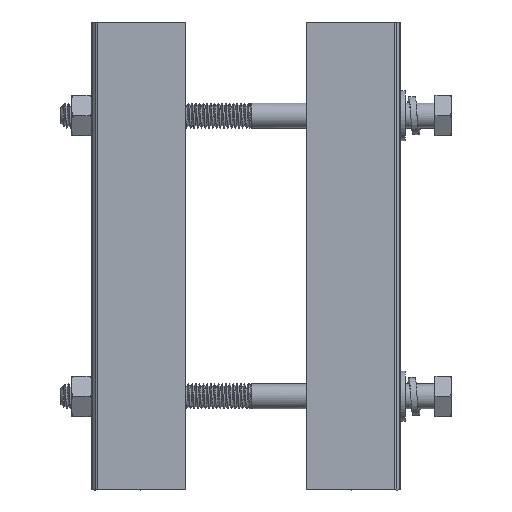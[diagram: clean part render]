
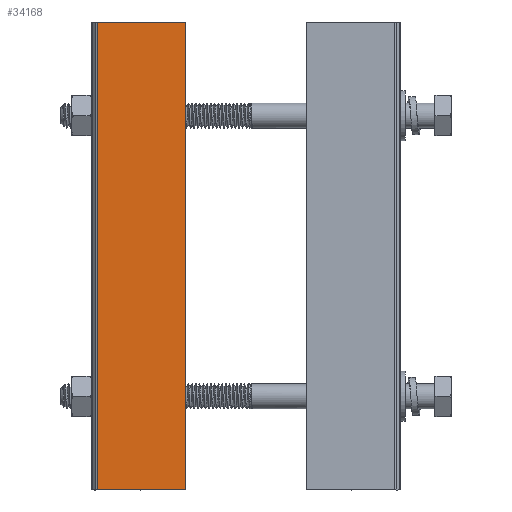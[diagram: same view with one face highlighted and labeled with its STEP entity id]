
A CAD part, left-side view. The second image highlights one B-rep face of the part: STEP entity #34168.
In plain terms, the highlighted planar face has unit normal (-1, 0, 0).
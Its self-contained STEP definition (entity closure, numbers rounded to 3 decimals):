
#4094 = EDGE_CURVE ( 'NONE', #25081, #71081, #68988, .T. ) ;
#6039 = VECTOR ( 'NONE', #31796, 1000. ) ;
#6715 = CARTESIAN_POINT ( 'NONE',  ( -22., 35.293, 0. ) ) ;
#8739 = CARTESIAN_POINT ( 'NONE',  ( -22., 7., 0. ) ) ;
#13277 = LINE ( 'NONE', #32592, #71995 ) ;
#14498 = EDGE_LOOP ( 'NONE', ( #62905, #26849, #21757, #19047 ) ) ;
#14526 = VERTEX_POINT ( 'NONE', #22387 ) ;
#16890 = LINE ( 'NONE', #51342, #46268 ) ;
#17905 = LINE ( 'NONE', #8739, #6039 ) ;
#17918 = EDGE_CURVE ( 'NONE', #25081, #49923, #16890, .T. ) ;
#19047 = ORIENTED_EDGE ( 'NONE', *, *, #38917, .F. ) ;
#20202 = EDGE_CURVE ( 'NONE', #71081, #14526, #13277, .T. ) ;
#21757 = ORIENTED_EDGE ( 'NONE', *, *, #20202, .T. ) ;
#22387 = CARTESIAN_POINT ( 'NONE',  ( -22., 7., 0. ) ) ;
#22658 = AXIS2_PLACEMENT_3D ( 'NONE', #62157, #27022, #50573 ) ;
#24146 = DIRECTION ( 'NONE',  ( 0., 0., -1. ) ) ;
#25081 = VERTEX_POINT ( 'NONE', #51746 ) ;
#26849 = ORIENTED_EDGE ( 'NONE', *, *, #4094, .T. ) ;
#27022 = DIRECTION ( 'NONE',  ( -1., 0., 0. ) ) ;
#31796 = DIRECTION ( 'NONE',  ( 0., 0., -1. ) ) ;
#32100 = CARTESIAN_POINT ( 'NONE',  ( -22., 35.293, 0. ) ) ;
#32592 = CARTESIAN_POINT ( 'NONE',  ( -22., 18.5, 0. ) ) ;
#34168 = ADVANCED_FACE ( 'NONE', ( #62952 ), #61641, .T. ) ;
#36395 = CARTESIAN_POINT ( 'NONE',  ( -22., 7., 150. ) ) ;
#38917 = EDGE_CURVE ( 'NONE', #49923, #14526, #17905, .T. ) ;
#46268 = VECTOR ( 'NONE', #74947, 1000. ) ;
#49923 = VERTEX_POINT ( 'NONE', #36395 ) ;
#50573 = DIRECTION ( 'NONE',  ( 0., 0., 1. ) ) ;
#51342 = CARTESIAN_POINT ( 'NONE',  ( -22., 18.5, 150. ) ) ;
#51746 = CARTESIAN_POINT ( 'NONE',  ( -22., 35.293, 150. ) ) ;
#61641 = PLANE ( 'NONE',  #22658 ) ;
#62095 = DIRECTION ( 'NONE',  ( 0., -1., 0. ) ) ;
#62157 = CARTESIAN_POINT ( 'NONE',  ( -22., 0., 0. ) ) ;
#62905 = ORIENTED_EDGE ( 'NONE', *, *, #17918, .F. ) ;
#62952 = FACE_OUTER_BOUND ( 'NONE', #14498, .T. ) ;
#68988 = LINE ( 'NONE', #6715, #70847 ) ;
#70847 = VECTOR ( 'NONE', #24146, 1000. ) ;
#71081 = VERTEX_POINT ( 'NONE', #32100 ) ;
#71995 = VECTOR ( 'NONE', #62095, 1000. ) ;
#74947 = DIRECTION ( 'NONE',  ( 0., -1., 0. ) ) ;
